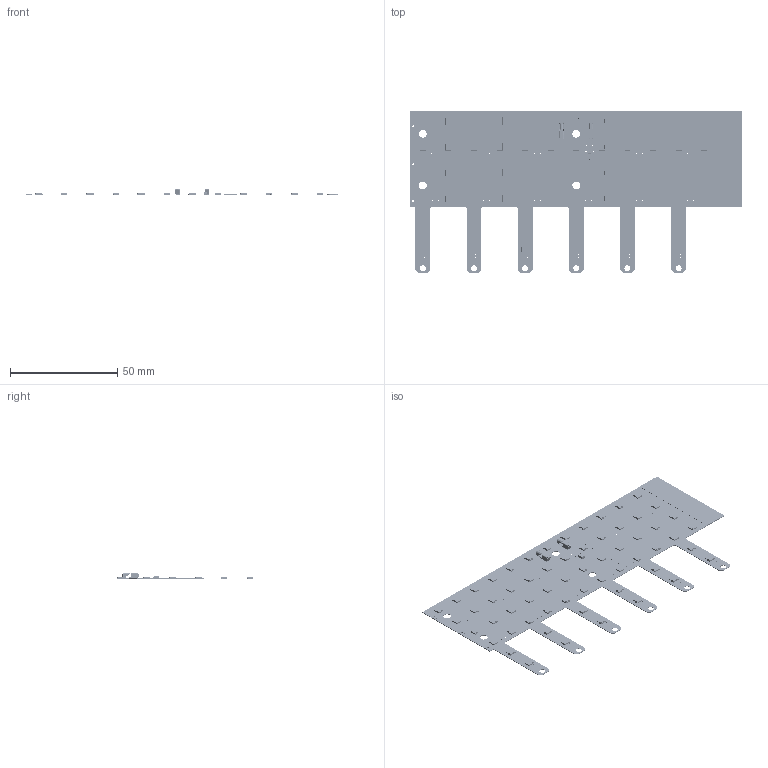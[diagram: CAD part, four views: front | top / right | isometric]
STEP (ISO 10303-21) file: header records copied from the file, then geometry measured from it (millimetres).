
FILE_DESCRIPTION (( 'STEP AP214' ), '1' );
FILE_NAME ('LUXTECH LUXsphere 3in 3D Model.STEP', '2025-09-23T14:17:25', ( '' ), ( '' ), 'SwSTEP 2.0', 'SolidWorks 2023', '' );
FILE_SCHEMA (( 'AUTOMOTIVE_DESIGN' ));
Length unit declared in the file: millimetre
Products named in the file (9): LUXTECH LUXsphere 3in 3D Model; 400-1111 Pad; SOD 123; BJB 46.110.1001.48; Cree J Series 2835 cool; Label 6mmx32mm; 400-1111 tape; 100-1111 rev 0; 400-1111 Half Pad
Assembly tree (72 placements, depth 2):
  LUXTECH LUXsphere 3in 3D Model
    100-1111 rev 0
    SOD 123
    Cree J Series 2835 cool  x60
    BJB 46.110.1001.48  x2
    400-1111 Pad  x3
    400-1111 Half Pad  x3
    Label 6mmx32mm
    400-1111 tape
Bounding box: 154.94 x 75.31 x 3.01 mm (x, y, z)
Volume: 2940.2 mm3; surface area: 23105.8 mm2
Topology: 730 solids, 736 shells, 25273 faces, 71343 edges, 47532 vertices
Faces by surface type: cylinder 14296, plane 10897, bspline 80
Entity records: 43954 total; most frequent: CARTESIAN_POINT 12118, ORIENTED_EDGE 4711, DIRECTION 4607, EDGE_CURVE 2365, AXIS2_PLACEMENT_3D 1617, VERTEX_POINT 1561, LINE 1373, VECTOR 1373
